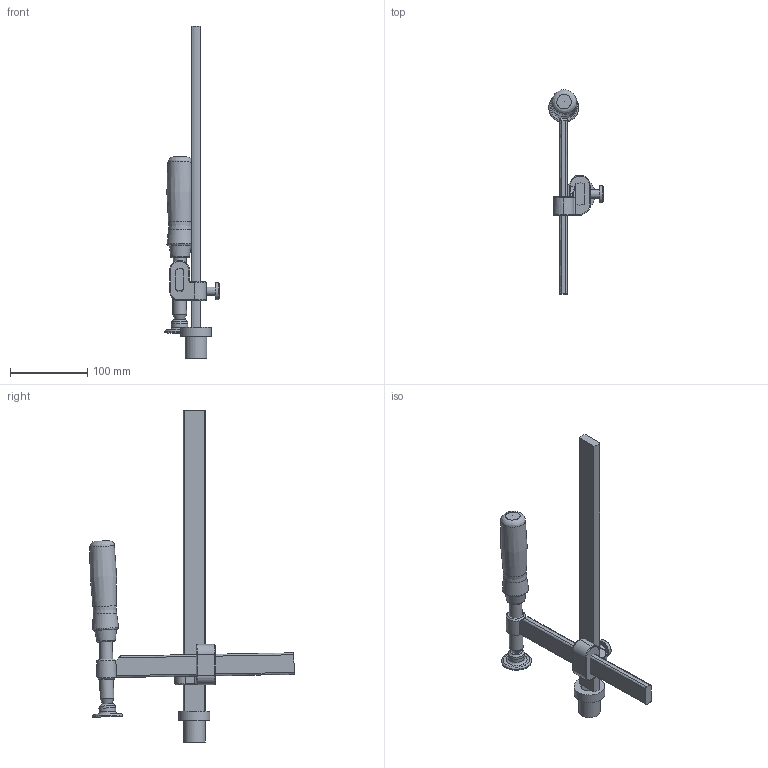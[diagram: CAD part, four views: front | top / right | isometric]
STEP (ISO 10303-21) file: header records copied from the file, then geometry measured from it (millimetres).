
FILE_DESCRIPTION( ('This file contains a STEP AP42 implementation' ,'as created by ZW3D STEP Interface translator.') ,'2;1' );
FILE_NAME( 'TWV28-30-17-2K.stp' ,'14 4 7.115140', (''), ('ZWCAD Software Co.'), 'Version 1.0', 'ZW3D to STEP translator', '' );
FILE_SCHEMA( ('CONFIG_CONTROL_DESIGN') );
Length unit declared in the file: millimetre
Products named in the file (3): 0; TWV28-30-17-2K; TWV28-30-Grundk.
Assembly tree (1 placements, depth 2):
  0
  TWV28-30-17-2K
    TWV28-30-Grundk.
Bounding box: 70.25 x 264.15 x 429 mm (x, y, z)
Volume: 407933.8 mm3; surface area: 93626.3 mm2
Topology: 9 solids, 9 shells, 125 faces, 265 edges, 151 vertices
Faces by surface type: bspline 125
Entity records: 5802 total; most frequent: CARTESIAN_POINT 4099, ORIENTED_EDGE 516, EDGE_CURVE 258, VERTEX_POINT 151, B_SPLINE_CURVE_WITH_KNOTS 146, EDGE_LOOP 129, FACE_OUTER_BOUND 125, ADVANCED_FACE 125
